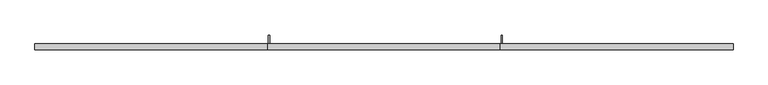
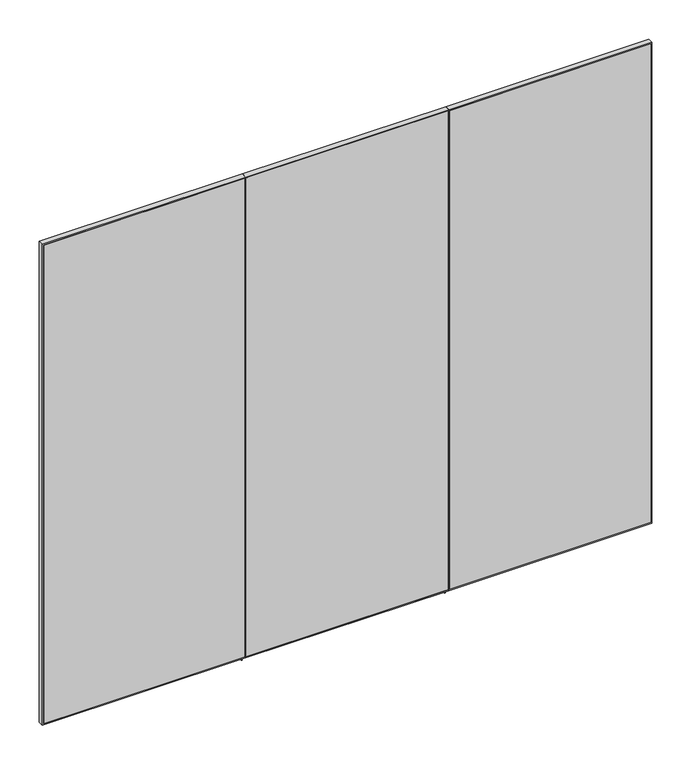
"""IFC4 building model written with IfcOpenShell, lengths in millimetres: furniture geometry, H103 Reja 3 módulos : H103.2 Reja 3 módulos 366x315."""

from ifc_helpers import new_model, si_unit, frame, origin, place, context, project, spatial, polyline, outline, extrude, source, transform, mapped, element, save


def furniture_a6d4d556(model_context):
    return source(origin(), model_context, "Body", "SweptSolid", [
        extrude(outline(polyline([(1397.7003264, -600.0), (188.2003264, -600.0), (188.2003264, -597.0), (1397.7003264, -597.0), (1397.7003264, -600.0)])), frame((0.0, 0.0, 57.0), z_axis=(0.0, 0.0, 1.0), x_axis=(1.0, 0.0, 0.0)), (0.0, 0.0, 1.0), 3036.0),
        extrude(outline(polyline([(3100.0, 1404.7003264), (3100.0, 184.7003264), (50.0, 184.7003264), (50.0, 1404.7003264), (3100.0, 1404.7003264)]), holes=[polyline([(3093.0, 1397.7003264), (57.0, 1397.7003264), (57.0, 188.2003264), (3093.0, 188.2003264), (3093.0, 1397.7003264)])]), frame((0.0, -600.0, 0.0), z_axis=(0.0, 1.0, 0.0), x_axis=(0.0, 0.0, 1.0)), (0.0, 0.0, 1.0), 32.0),
        extrude(outline(polyline([(181.2003264, -600.0), (-1031.7996736, -600.0), (-1031.7996736, -597.0), (181.2003264, -597.0), (181.2003264, -600.0)])), frame((0.0, 0.0, 57.0), z_axis=(0.0, 0.0, 1.0), x_axis=(1.0, 0.0, 0.0)), (0.0, 0.0, 1.0), 3036.0),
        extrude(outline(polyline([(3100.0, 184.7003264), (3100.0, -1035.2996736), (50.0, -1035.2996736), (50.0, 184.7003264), (3100.0, 184.7003264)]), holes=[polyline([(3093.0, 181.2003264), (57.0, 181.2003264), (57.0, -1031.7996736), (3093.0, -1031.7996736), (3093.0, 181.2003264)])]), frame((0.0, -600.0, 0.0), z_axis=(0.0, 1.0, 0.0), x_axis=(0.0, 0.0, 1.0)), (0.0, 0.0, 1.0), 32.0),
        extrude(outline(polyline([(-1038.7996736, -600.0), (-2248.2996736, -600.0), (-2248.2996736, -597.0), (-1038.7996736, -597.0), (-1038.7996736, -600.0)])), frame((0.0, 0.0, 57.0), z_axis=(0.0, 0.0, 1.0), x_axis=(1.0, 0.0, 0.0)), (0.0, 0.0, 1.0), 3036.0),
        extrude(outline(polyline([(3100.0, -1035.2996736), (3100.0, -2255.2996736), (50.0, -2255.2996736), (50.0, -1035.2996736), (3100.0, -1035.2996736)]), holes=[polyline([(3093.0, -1038.7996736), (57.0, -1038.7996736), (57.0, -2248.2996736), (3093.0, -2248.2996736), (3093.0, -1038.7996736)])]), frame((0.0, -600.0, 0.0), z_axis=(0.0, 1.0, 0.0), x_axis=(0.0, 0.0, 1.0)), (0.0, 0.0, 1.0), 32.0),
        extrude(outline(polyline([(-522.0, 82.0), (-522.0, 0.0), (-547.0, 0.0), (-547.0, 57.0), (-597.0, 57.0), (-597.0, 82.0), (-522.0, 82.0)])), frame((188.2003264, 0.0, 0.0), z_axis=(1.0, 0.0, 0.0), x_axis=(0.0, 1.0, 0.0)), (0.0, 0.0, 1.0), 7.0),
        extrude(outline(polyline([(-522.0, 82.0), (-522.0, 0.0), (-547.0, 0.0), (-547.0, 57.0), (-597.0, 57.0), (-597.0, 82.0), (-522.0, 82.0)])), frame((-1031.7996736, 0.0, 0.0), z_axis=(1.0, 0.0, 0.0), x_axis=(0.0, 1.0, 0.0)), (0.0, 0.0, 1.0), 7.0),
    ])


if __name__ == "__main__":
    model = new_model("IFC4")
    model_context = context("Model", 3, world=origin())
    ifc_project = project(units=[si_unit("LENGTHUNIT", "METRE", prefix="MILLI")], contexts=[model_context])
    site = spatial("IfcSite", under=ifc_project)
    building = spatial("IfcBuilding", under=site)
    placement = place(None, origin())
    furniture_shape = furniture_a6d4d556(model_context)
    element("IfcFurniture", 1, ObjectType="H103 Reja 3 módulos : H103.2 Reja 3 módulos 366x315", at=placement, inside=building, context=model_context, shape_type="MappedRepresentation", body=[
        mapped(furniture_shape, transform((0.0, 0.0, 0.0), x_axis=(1.0, 0.0, 0.0), y_axis=(0.0, 1.0, 0.0), z_axis=(0.0, 0.0, 1.0))),
    ])
    save(model, "model.ifc")
